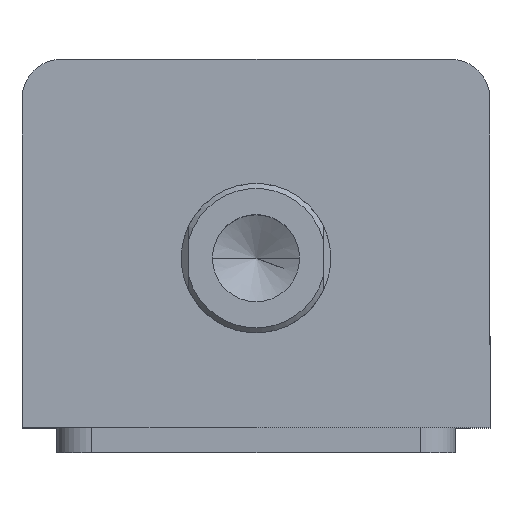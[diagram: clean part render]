
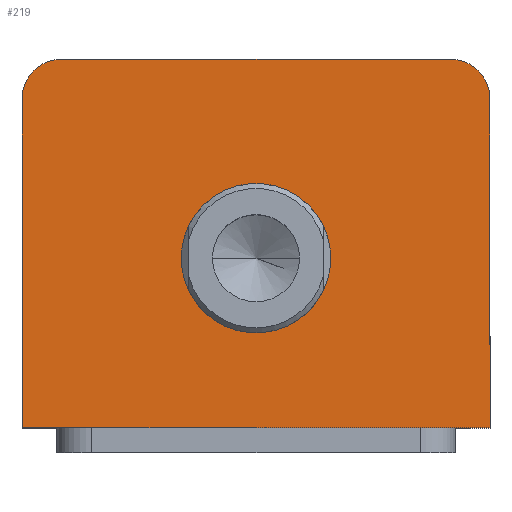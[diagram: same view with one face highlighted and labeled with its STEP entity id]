
A CAD part, top view. The second image highlights one B-rep face of the part: STEP entity #219.
In plain terms, the highlighted planar face has unit normal (0, 0, 1).
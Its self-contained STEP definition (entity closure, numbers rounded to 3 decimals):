
#29 = FACE_BOUND ( 'NONE', #1110, .T. ) ;
#40 = FACE_OUTER_BOUND ( 'NONE', #1075, .T. ) ;
#219 = ADVANCED_FACE ( 'NONE', ( #29, #40 ), #874, .T. ) ;
#234 = EDGE_CURVE ( 'NONE', #2153, #2191, #2169, .T. ) ;
#244 = EDGE_CURVE ( 'NONE', #2157, #2137, #2182, .T. ) ;
#250 = EDGE_CURVE ( 'NONE', #2133, #2150, #2320, .T. ) ;
#258 = EDGE_CURVE ( 'NONE', #2137, #2133, #2217, .T. ) ;
#267 = EDGE_CURVE ( 'NONE', #2352, #2353, #2235, .T. ) ;
#341 = AXIS2_PLACEMENT_3D ( 'NONE', #2080, #2078, #2077 ) ;
#418 = AXIS2_PLACEMENT_3D ( 'NONE', #871, #876, #877 ) ;
#619 = CARTESIAN_POINT ( 'NONE',  ( -47., 29., 80. ) ) ;
#623 = CARTESIAN_POINT ( 'NONE',  ( -47., -37., 80. ) ) ;
#643 = CARTESIAN_POINT ( 'NONE',  ( 47., -37., 80. ) ) ;
#646 = CARTESIAN_POINT ( 'NONE',  ( 47., 29., 80. ) ) ;
#650 = CARTESIAN_POINT ( 'NONE',  ( -39., 37., 80. ) ) ;
#666 = CARTESIAN_POINT ( 'NONE',  ( 39., 37., 80. ) ) ;
#695 = CARTESIAN_POINT ( 'NONE',  ( 15., -3., 80. ) ) ;
#696 = CARTESIAN_POINT ( 'NONE',  ( -15., -3., 80. ) ) ;
#871 = CARTESIAN_POINT ( 'NONE',  ( 0., 0., 80. ) ) ;
#874 = PLANE ( 'NONE',  #418 ) ;
#876 = DIRECTION ( 'NONE',  ( 0., 0., 1. ) ) ;
#877 = DIRECTION ( 'NONE',  ( 1., 0., 0. ) ) ;
#1075 = EDGE_LOOP ( 'NONE', ( #1237, #1238, #1239, #1241, #1242, #1243 ) ) ;
#1110 = EDGE_LOOP ( 'NONE', ( #1235, #1236 ) ) ;
#1235 = ORIENTED_EDGE ( 'NONE', *, *, #267, .F. ) ;
#1236 = ORIENTED_EDGE ( 'NONE', *, *, #1584, .F. ) ;
#1237 = ORIENTED_EDGE ( 'NONE', *, *, #1605, .T. ) ;
#1238 = ORIENTED_EDGE ( 'NONE', *, *, #244, .T. ) ;
#1239 = ORIENTED_EDGE ( 'NONE', *, *, #258, .T. ) ;
#1241 = ORIENTED_EDGE ( 'NONE', *, *, #250, .T. ) ;
#1242 = ORIENTED_EDGE ( 'NONE', *, *, #1617, .T. ) ;
#1243 = ORIENTED_EDGE ( 'NONE', *, *, #234, .T. ) ;
#1319 = CIRCLE ( 'NONE', #341, 15. ) ;
#1584 = EDGE_CURVE ( 'NONE', #2353, #2352, #1319, .T. ) ;
#1605 = EDGE_CURVE ( 'NONE', #2191, #2157, #1975, .T. ) ;
#1617 = EDGE_CURVE ( 'NONE', #2150, #2153, #1952, .T. ) ;
#1694 = AXIS2_PLACEMENT_3D ( 'NONE', #2835, #2675, #2716 ) ;
#1702 = AXIS2_PLACEMENT_3D ( 'NONE', #2772, #2751, #2796 ) ;
#1707 = AXIS2_PLACEMENT_3D ( 'NONE', #2695, #2686, #2681 ) ;
#1949 = VECTOR ( 'NONE', #2631, 1000. ) ;
#1952 = LINE ( 'NONE', #2599, #1949 ) ;
#1972 = VECTOR ( 'NONE', #2008, 1000. ) ;
#1975 = LINE ( 'NONE', #2009, #1972 ) ;
#2008 = DIRECTION ( 'NONE',  ( -1., 0., 0. ) ) ;
#2009 = CARTESIAN_POINT ( 'NONE',  ( -47., 37., 80. ) ) ;
#2077 = DIRECTION ( 'NONE',  ( 1., 0., 0. ) ) ;
#2078 = DIRECTION ( 'NONE',  ( 0., 0., 1. ) ) ;
#2080 = CARTESIAN_POINT ( 'NONE',  ( 0., -3., 80. ) ) ;
#2133 = VERTEX_POINT ( 'NONE', #623 ) ;
#2137 = VERTEX_POINT ( 'NONE', #619 ) ;
#2150 = VERTEX_POINT ( 'NONE', #643 ) ;
#2153 = VERTEX_POINT ( 'NONE', #646 ) ;
#2157 = VERTEX_POINT ( 'NONE', #650 ) ;
#2169 = CIRCLE ( 'NONE', #1694, 8. ) ;
#2182 = CIRCLE ( 'NONE', #1702, 8. ) ;
#2191 = VERTEX_POINT ( 'NONE', #666 ) ;
#2214 = VECTOR ( 'NONE', #2805, 1000. ) ;
#2217 = LINE ( 'NONE', #2697, #2214 ) ;
#2235 = CIRCLE ( 'NONE', #1707, 15. ) ;
#2317 = VECTOR ( 'NONE', #2840, 1000. ) ;
#2320 = LINE ( 'NONE', #2843, #2317 ) ;
#2352 = VERTEX_POINT ( 'NONE', #695 ) ;
#2353 = VERTEX_POINT ( 'NONE', #696 ) ;
#2599 = CARTESIAN_POINT ( 'NONE',  ( 47., 37., 80. ) ) ;
#2631 = DIRECTION ( 'NONE',  ( 0., 1., 0. ) ) ;
#2675 = DIRECTION ( 'NONE',  ( 0., 0., 1. ) ) ;
#2681 = DIRECTION ( 'NONE',  ( 1., 0., 0. ) ) ;
#2686 = DIRECTION ( 'NONE',  ( 0., 0., 1. ) ) ;
#2695 = CARTESIAN_POINT ( 'NONE',  ( 0., -3., 80. ) ) ;
#2697 = CARTESIAN_POINT ( 'NONE',  ( -47., 37., 80. ) ) ;
#2716 = DIRECTION ( 'NONE',  ( 1., 0., 0. ) ) ;
#2751 = DIRECTION ( 'NONE',  ( 0., 0., 1. ) ) ;
#2772 = CARTESIAN_POINT ( 'NONE',  ( -39., 29., 80. ) ) ;
#2796 = DIRECTION ( 'NONE',  ( 1., 0., 0. ) ) ;
#2805 = DIRECTION ( 'NONE',  ( 0., -1., 0. ) ) ;
#2835 = CARTESIAN_POINT ( 'NONE',  ( 39., 29., 80. ) ) ;
#2840 = DIRECTION ( 'NONE',  ( 1., 0., 0. ) ) ;
#2843 = CARTESIAN_POINT ( 'NONE',  ( -47., -37., 80. ) ) ;
